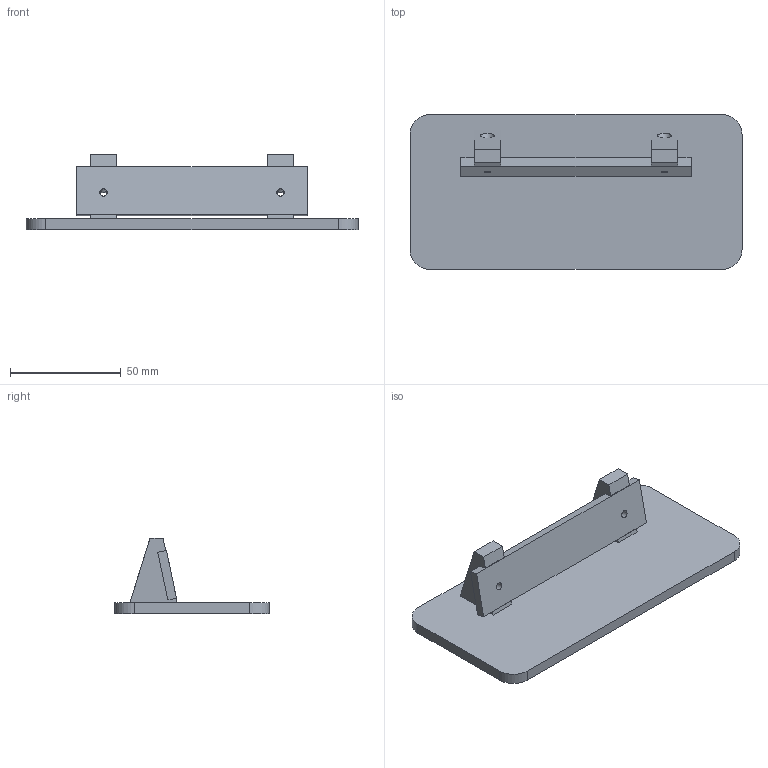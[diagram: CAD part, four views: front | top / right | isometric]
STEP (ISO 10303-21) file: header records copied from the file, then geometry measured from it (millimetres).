
FILE_DESCRIPTION(('Open CASCADE Model'),'2;1');
FILE_NAME('Open CASCADE Shape Model','2026-10-18T19:44:56',('Author'),( 'Open CASCADE'),'Open CASCADE STEP processor 7.9','Open CASCADE 7.9' ,'Unknown');
FILE_SCHEMA(('AUTOMOTIVE_DESIGN { 1 0 10303 214 1 1 1 1 }'));
Length unit declared in the file: millimetre
Products named in the file (1): Open CASCADE STEP translator 7.9 5
Bounding box: 150 x 70 x 34 mm (x, y, z)
Volume: 67544.6 mm3; surface area: 30336.7 mm2
Topology: 1 solids, 1 shells, 44 faces, 108 edges, 72 vertices
Faces by surface type: plane 32, cylinder 12
Full cylindrical faces by diameter (mm): 3.3 x2, 6.4 x2, 10.4 x4
Entity records: 2780 total; most frequent: CARTESIAN_POINT 603, DIRECTION 392, LINE 242, VECTOR 242, ORIENTED_EDGE 216, PCURVE 216, DEFINITIONAL_REPRESENTATION 216, EDGE_CURVE 108
